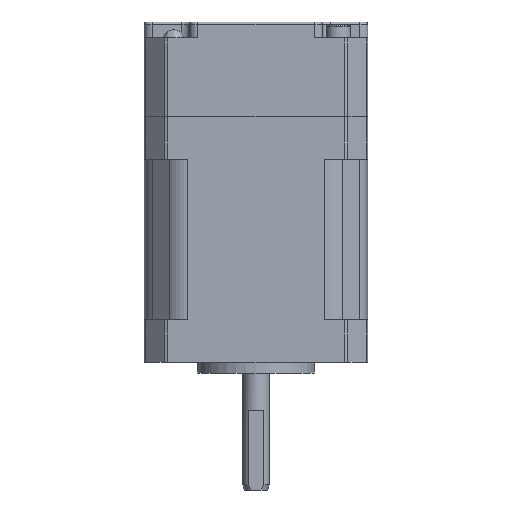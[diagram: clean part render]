
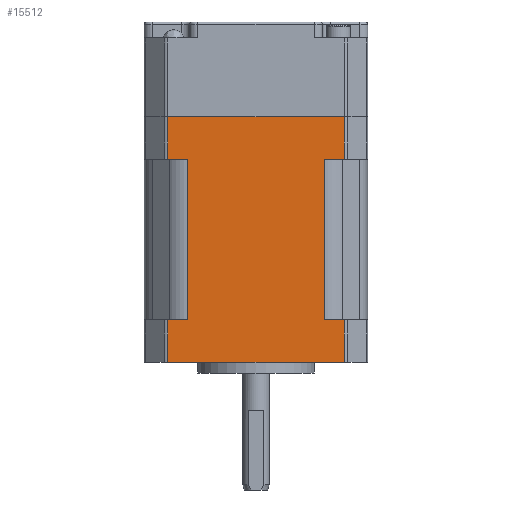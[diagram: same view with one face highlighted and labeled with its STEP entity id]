
A CAD part, front view. The second image highlights one B-rep face of the part: STEP entity #15512.
In plain terms, the highlighted planar face has unit normal (0, -1, 0).
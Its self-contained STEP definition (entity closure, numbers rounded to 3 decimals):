
#6991=DIRECTION('',(-1.,0.,0.));
#6992=VECTOR('',#6991,3.778);
#6993=CARTESIAN_POINT('',(37.586,0.,20.8));
#6994=LINE('',#6993,#6992);
#6995=DIRECTION('',(1.,0.,0.));
#6996=VECTOR('',#6995,33.172);
#6997=CARTESIAN_POINT('',(4.414,0.,12.8));
#6998=LINE('',#6997,#6996);
#6999=DIRECTION('',(-1.,0.,0.));
#7000=VECTOR('',#6999,3.778);
#7001=CARTESIAN_POINT('',(8.192,0.,20.8));
#7002=LINE('',#7001,#7000);
#7017=DIRECTION('',(-1.,0.,0.));
#7018=VECTOR('',#7017,3.778);
#7019=CARTESIAN_POINT('',(37.586,0.,51.));
#7020=LINE('',#7019,#7018);
#7194=DIRECTION('',(1.,0.,0.));
#7195=VECTOR('',#7194,33.172);
#7196=CARTESIAN_POINT('',(4.414,0.,59.));
#7197=LINE('',#7196,#7195);
#7358=DIRECTION('',(0.,0.,-1.));
#7359=VECTOR('',#7358,8.);
#7360=CARTESIAN_POINT('',(37.586,0.,59.));
#7361=LINE('',#7360,#7359);
#7366=DIRECTION('',(0.,0.,1.));
#7367=VECTOR('',#7366,8.);
#7368=CARTESIAN_POINT('',(4.414,0.,51.));
#7369=LINE('',#7368,#7367);
#7379=DIRECTION('',(-1.,0.,0.));
#7380=VECTOR('',#7379,3.778);
#7381=CARTESIAN_POINT('',(8.192,0.,51.));
#7382=LINE('',#7381,#7380);
#7414=DIRECTION('',(0.,0.,1.));
#7415=VECTOR('',#7414,30.2);
#7416=CARTESIAN_POINT('',(8.192,0.,20.8));
#7417=LINE('',#7416,#7415);
#7458=DIRECTION('',(0.,0.,1.));
#7459=VECTOR('',#7458,8.);
#7460=CARTESIAN_POINT('',(4.414,0.,12.8));
#7461=LINE('',#7460,#7459);
#7654=DIRECTION('',(0.,0.,-1.));
#7655=VECTOR('',#7654,30.2);
#7656=CARTESIAN_POINT('',(33.808,0.,51.));
#7657=LINE('',#7656,#7655);
#7674=DIRECTION('',(0.,0.,-1.));
#7675=VECTOR('',#7674,8.);
#7676=CARTESIAN_POINT('',(37.586,0.,20.8));
#7677=LINE('',#7676,#7675);
#7698=CARTESIAN_POINT('',(4.414,0.,12.8));
#7699=CARTESIAN_POINT('',(37.586,0.,12.8));
#7700=VERTEX_POINT('',#7698);
#7701=VERTEX_POINT('',#7699);
#7834=CARTESIAN_POINT('',(37.586,0.,51.));
#7835=CARTESIAN_POINT('',(33.808,0.,51.));
#7836=VERTEX_POINT('',#7834);
#7837=VERTEX_POINT('',#7835);
#7838=CARTESIAN_POINT('',(37.586,0.,59.));
#7839=VERTEX_POINT('',#7838);
#7840=CARTESIAN_POINT('',(4.414,0.,59.));
#7841=VERTEX_POINT('',#7840);
#7842=CARTESIAN_POINT('',(4.414,0.,51.));
#7843=VERTEX_POINT('',#7842);
#7844=CARTESIAN_POINT('',(8.192,0.,51.));
#7845=VERTEX_POINT('',#7844);
#7846=CARTESIAN_POINT('',(8.192,0.,20.8));
#7847=VERTEX_POINT('',#7846);
#7848=CARTESIAN_POINT('',(4.414,0.,20.8));
#7849=VERTEX_POINT('',#7848);
#7850=CARTESIAN_POINT('',(37.586,0.,20.8));
#7851=VERTEX_POINT('',#7850);
#7852=CARTESIAN_POINT('',(33.808,0.,20.8));
#7853=VERTEX_POINT('',#7852);
#15482=CARTESIAN_POINT('',(42.,0.,59.));
#15483=DIRECTION('',(0.,-1.,0.));
#15484=DIRECTION('',(0.,0.,-1.));
#15485=AXIS2_PLACEMENT_3D('',#15482,#15483,#15484);
#15486=PLANE('',#15485);
#15488=ORIENTED_EDGE('',*,*,#15487,.T.);
#15490=ORIENTED_EDGE('',*,*,#15489,.T.);
#15492=ORIENTED_EDGE('',*,*,#15491,.F.);
#15494=ORIENTED_EDGE('',*,*,#15493,.T.);
#15495=ORIENTED_EDGE('',*,*,#8661,.F.);
#15497=ORIENTED_EDGE('',*,*,#15496,.T.);
#15499=ORIENTED_EDGE('',*,*,#15498,.F.);
#15501=ORIENTED_EDGE('',*,*,#15500,.T.);
#15503=ORIENTED_EDGE('',*,*,#15502,.T.);
#15505=ORIENTED_EDGE('',*,*,#15504,.T.);
#15507=ORIENTED_EDGE('',*,*,#15506,.T.);
#15509=ORIENTED_EDGE('',*,*,#15508,.T.);
#15510=EDGE_LOOP('',(#15488,#15490,#15492,#15494,#15495,#15497,#15499,#15501,
#15503,#15505,#15507,#15509));
#15511=FACE_OUTER_BOUND('',#15510,.F.);
#8661=EDGE_CURVE('',#7700,#7701,#6998,.T.);
#15487=EDGE_CURVE('',#7836,#7837,#7020,.T.);
#15489=EDGE_CURVE('',#7837,#7853,#7657,.T.);
#15491=EDGE_CURVE('',#7851,#7853,#6994,.T.);
#15493=EDGE_CURVE('',#7851,#7701,#7677,.T.);
#15496=EDGE_CURVE('',#7700,#7849,#7461,.T.);
#15498=EDGE_CURVE('',#7847,#7849,#7002,.T.);
#15500=EDGE_CURVE('',#7847,#7845,#7417,.T.);
#15502=EDGE_CURVE('',#7845,#7843,#7382,.T.);
#15504=EDGE_CURVE('',#7843,#7841,#7369,.T.);
#15506=EDGE_CURVE('',#7841,#7839,#7197,.T.);
#15508=EDGE_CURVE('',#7839,#7836,#7361,.T.);
#15512=ADVANCED_FACE('',(#15511),#15486,.T.);
